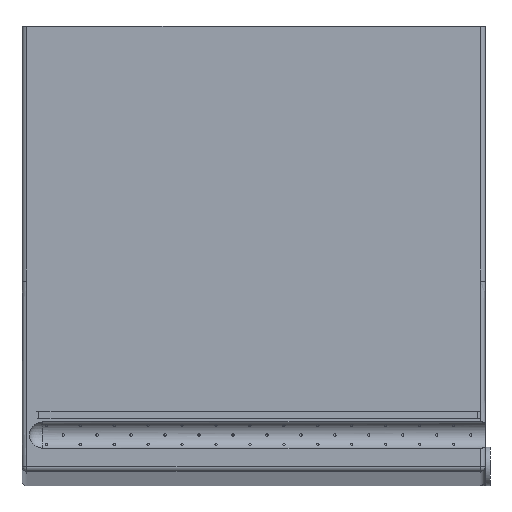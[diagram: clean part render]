
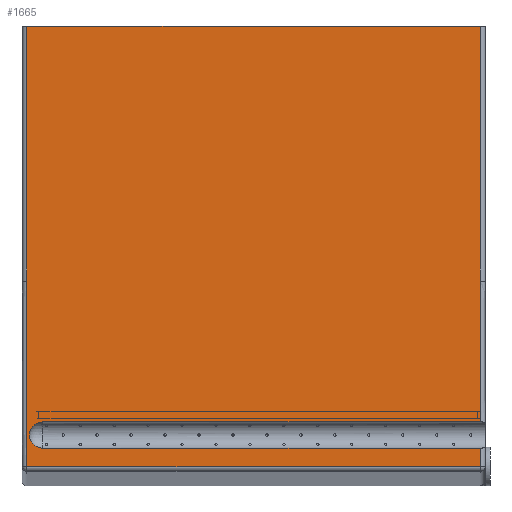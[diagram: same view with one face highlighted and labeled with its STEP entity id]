
A CAD part, left-side view. The second image highlights one B-rep face of the part: STEP entity #1665.
In plain terms, the highlighted planar face has unit normal (-1, 0, 0).
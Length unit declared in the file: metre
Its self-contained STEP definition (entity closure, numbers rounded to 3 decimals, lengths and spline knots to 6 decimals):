
#1665=ADVANCED_FACE('0:1480',(#3431),#3432,.T.);
#3431=FACE_OUTER_BOUND('',#12682,.T.);
#3432=PLANE('',#12683);
#12682=EDGE_LOOP('',(#17838,#17839,#17840,#17841,#17842,#17843,#17844,#17845,#17846,#17847,#17848));
#12683=AXIS2_PLACEMENT_3D('',#17849,#17850,#17851);
#17838=ORIENTED_EDGE('',*,*,#20357,.T.);
#17839=ORIENTED_EDGE('',*,*,#19879,.F.);
#17840=ORIENTED_EDGE('',*,*,#20358,.T.);
#17841=ORIENTED_EDGE('',*,*,#20354,.F.);
#17842=ORIENTED_EDGE('',*,*,#20353,.F.);
#17843=ORIENTED_EDGE('',*,*,#20350,.F.);
#17844=ORIENTED_EDGE('',*,*,#18834,.T.);
#17845=ORIENTED_EDGE('',*,*,#20348,.T.);
#17846=ORIENTED_EDGE('',*,*,#20477,.F.);
#17847=ORIENTED_EDGE('',*,*,#19182,.F.);
#17848=ORIENTED_EDGE('',*,*,#18795,.F.);
#17849=CARTESIAN_POINT('',(-0.173,-0.174,-0.027));
#17850=DIRECTION('',(-1.0,0.0,0.0));
#17851=DIRECTION('',(0.0,0.0,1.0));
#18795=EDGE_CURVE('0:2206',#21347,#21349,#21350,.T.);
#18834=EDGE_CURVE('0:2305',#21417,#21415,#21418,.T.);
#19182=EDGE_CURVE('0:3145',#21349,#21974,#21976,.T.);
#19879=EDGE_CURVE('0:4780',#22975,#22976,#22978,.T.);
#20348=EDGE_CURVE('0:5653',#21415,#23609,#23611,.T.);
#20350=EDGE_CURVE('0:5656',#21417,#23613,#23614,.T.);
#20353=EDGE_CURVE('0:5662',#23613,#23617,#23618,.F.);
#20354=EDGE_CURVE('0:5665',#23617,#23619,#23620,.F.);
#20357=EDGE_CURVE('0:5671',#21347,#22976,#23623,.T.);
#20358=EDGE_CURVE('0:5674',#22975,#23619,#23624,.T.);
#20477=EDGE_CURVE('0:5794',#21974,#23609,#23821,.F.);
#21347=VERTEX_POINT('',#28909);
#21349=VERTEX_POINT('',#28923);
#21350=LINE('',#28924,#28925);
#21415=VERTEX_POINT('',#29137);
#21417=VERTEX_POINT('',#29166);
#21418=LINE('',#29167,#29168);
#21974=VERTEX_POINT('',#30639);
#21976=LINE('',#30641,#30642);
#22975=VERTEX_POINT('',#34256);
#22976=VERTEX_POINT('',#34257);
#22978=CIRCLE('',#34259,0.010817);
#23609=VERTEX_POINT('',#41762);
#23611=B_SPLINE_CURVE_WITH_KNOTS('',1,(#41781,#41782),.UNSPECIFIED.,.F.,.F.,(2,2),(0.044066,1.0),.UNSPECIFIED.);
#23613=VERTEX_POINT('',#41784);
#23614=B_SPLINE_CURVE_WITH_KNOTS('',1,(#41785,#41786),.UNSPECIFIED.,.F.,.F.,(2,2),(0.044066,1.0),.UNSPECIFIED.);
#23617=VERTEX_POINT('',#41804);
#23618=B_SPLINE_CURVE_WITH_KNOTS('',3,(#41805,#41806,#41807,#41808),.UNSPECIFIED.,.F.,.F.,(4,4),(0.0,0.322758),.UNSPECIFIED.);
#23619=VERTEX_POINT('',#41809);
#23620=B_SPLINE_CURVE_WITH_KNOTS('',3,(#41810,#41811,#41812,#41813,#41814,#41815,#41816,#41817,#41818,#41819,#41820,#41821,#41822,#41823,#41824,#41825),.UNSPECIFIED.,.F.,.F.,(4,1,1,1,1,1,1,1,1,1,1,1,1,4),(0.0,0.034069,0.087904,0.16146,0.254656,0.367482,0.5,0.571175,0.642391,0.713687,0.785075,0.856531,0.928085,1.0),.UNSPECIFIED.);
#23623=LINE('',#41840,#41841);
#23624=LINE('',#41842,#41843);
#23821=B_SPLINE_CURVE_WITH_KNOTS('',3,(#44692,#44693,#44694,#44695,#44696,#44697,#44698,#44699,#44700,#44701,#44702,#44703,#44704,#44705,#44706,#44707,#44708),.UNSPECIFIED.,.F.,.F.,(4,1,1,1,1,1,1,1,1,1,1,1,1,1,4),(0.105464,0.152196,0.208201,0.273499,0.348051,0.431839,0.52499,0.583638,0.642391,0.701294,0.760397,0.819761,0.879448,0.939513,1.),.UNSPECIFIED.);
#28909=CARTESIAN_POINT('',(-0.173,-0.166,-0.388817));
#28923=CARTESIAN_POINT('',(-0.173,-0.166,-0.404163));
#28924=CARTESIAN_POINT('',(-0.173,-0.166,-0.388817));
#28925=VECTOR('',#45298,1.0);
#29137=CARTESIAN_POINT('',(-0.17299,0.207999,-0.040694));
#29166=CARTESIAN_POINT('',(-0.172993,-0.166037,-0.040694));
#29167=CARTESIAN_POINT('',(-0.173,-0.174,-0.040694));
#29168=VECTOR('',#45322,1.0);
#30639=CARTESIAN_POINT('',(-0.172997,0.208,-0.404163));
#30641=CARTESIAN_POINT('',(-0.173,0.208,-0.404163));
#30642=VECTOR('',#45684,1.0);
#34256=CARTESIAN_POINT('',(-0.173,0.195,-0.367183));
#34257=CARTESIAN_POINT('',(-0.173,0.195,-0.388817));
#34259=AXIS2_PLACEMENT_3D('',#46366,#46367,#46368);
#41762=CARTESIAN_POINT('',(-0.172984,0.207999,-0.251));
#41781=CARTESIAN_POINT('',(-0.173,0.207999,-0.040694));
#41782=CARTESIAN_POINT('',(-0.173,0.207999,-0.251));
#41784=CARTESIAN_POINT('',(-0.172995,-0.166037,-0.251));
#41785=CARTESIAN_POINT('',(-0.172991,-0.166037,-0.040694));
#41786=CARTESIAN_POINT('',(-0.172991,-0.166037,-0.251));
#41804=CARTESIAN_POINT('',(-0.172993,-0.166,-0.252288));
#41805=CARTESIAN_POINT('',(-0.172986,-0.166,-0.252288));
#41806=CARTESIAN_POINT('',(-0.172988,-0.166013,-0.251859));
#41807=CARTESIAN_POINT('',(-0.172989,-0.166025,-0.25143));
#41808=CARTESIAN_POINT('',(-0.172991,-0.166037,-0.251));
#41809=CARTESIAN_POINT('',(-0.172995,-0.166,-0.367183));
#41810=CARTESIAN_POINT('',(-0.172987,-0.166,-0.367183));
#41811=CARTESIAN_POINT('',(-0.172984,-0.166001,-0.365879));
#41812=CARTESIAN_POINT('',(-0.172976,-0.166004,-0.362512));
#41813=CARTESIAN_POINT('',(-0.172974,-0.166005,-0.356328));
#41814=CARTESIAN_POINT('',(-0.172977,-0.165997,-0.34788));
#41815=CARTESIAN_POINT('',(-0.172977,-0.165996,-0.337173));
#41816=CARTESIAN_POINT('',(-0.172975,-0.165999,-0.324207));
#41817=CARTESIAN_POINT('',(-0.172976,-0.166001,-0.312085));
#41818=CARTESIAN_POINT('',(-0.172976,-0.166,-0.301557));
#41819=CARTESIAN_POINT('',(-0.172976,-0.166,-0.293373));
#41820=CARTESIAN_POINT('',(-0.172976,-0.166002,-0.285181));
#41821=CARTESIAN_POINT('',(-0.172976,-0.166005,-0.27698));
#41822=CARTESIAN_POINT('',(-0.172976,-0.166005,-0.268769));
#41823=CARTESIAN_POINT('',(-0.172973,-0.165994,-0.260537));
#41824=CARTESIAN_POINT('',(-0.172982,-0.165998,-0.255043));
#41825=CARTESIAN_POINT('',(-0.172986,-0.166,-0.252288));
#41840=CARTESIAN_POINT('',(-0.173,0.195,-0.388817));
#41841=VECTOR('',#46469,1.0);
#41842=CARTESIAN_POINT('',(-0.173,0.195,-0.367183));
#41843=VECTOR('',#46470,1.0);
#44692=CARTESIAN_POINT('',(-0.172979,0.207999,-0.251));
#44693=CARTESIAN_POINT('',(-0.172979,0.207997,-0.253667));
#44694=CARTESIAN_POINT('',(-0.172978,0.207994,-0.259531));
#44695=CARTESIAN_POINT('',(-0.17298,0.207986,-0.269121));
#44696=CARTESIAN_POINT('',(-0.17298,0.207987,-0.280299));
#44697=CARTESIAN_POINT('',(-0.172979,0.207991,-0.293063));
#44698=CARTESIAN_POINT('',(-0.172979,0.207996,-0.307416));
#44699=CARTESIAN_POINT('',(-0.172979,0.207999,-0.320862));
#44700=CARTESIAN_POINT('',(-0.172979,0.207998,-0.332879));
#44701=CARTESIAN_POINT('',(-0.172978,0.207998,-0.342941));
#44702=CARTESIAN_POINT('',(-0.172978,0.208,-0.35303));
#44703=CARTESIAN_POINT('',(-0.172979,0.208001,-0.363153));
#44704=CARTESIAN_POINT('',(-0.17298,0.207999,-0.373321));
#44705=CARTESIAN_POINT('',(-0.172978,0.207987,-0.383544));
#44706=CARTESIAN_POINT('',(-0.172977,0.207977,-0.39383));
#44707=CARTESIAN_POINT('',(-0.172988,0.207992,-0.400711));
#44708=CARTESIAN_POINT('',(-0.172994,0.208,-0.404163));
#45298=DIRECTION('',(0.0,0.0,-1.0));
#45322=DIRECTION('',(0.0,1.0,0.0));
#45684=DIRECTION('',(-0.0,1.0,-0.0));
#46366=CARTESIAN_POINT('',(-0.173,0.195,-0.378));
#46367=DIRECTION('',(-1.0,0.0,0.0));
#46368=DIRECTION('',(0.0,-1.0,0.0));
#46469=DIRECTION('',(-0.0,1.0,-0.0));
#46470=DIRECTION('',(0.0,-1.0,0.0));
